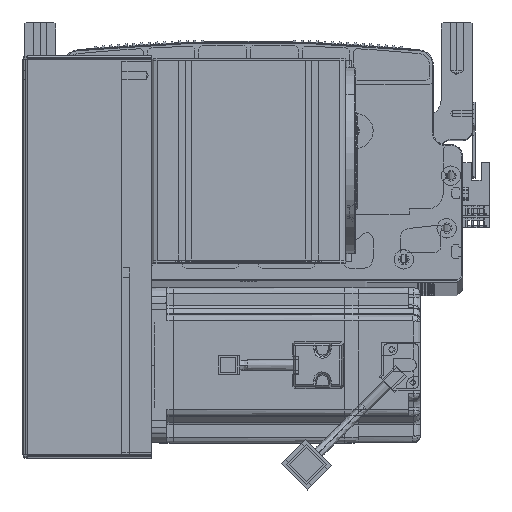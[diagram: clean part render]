
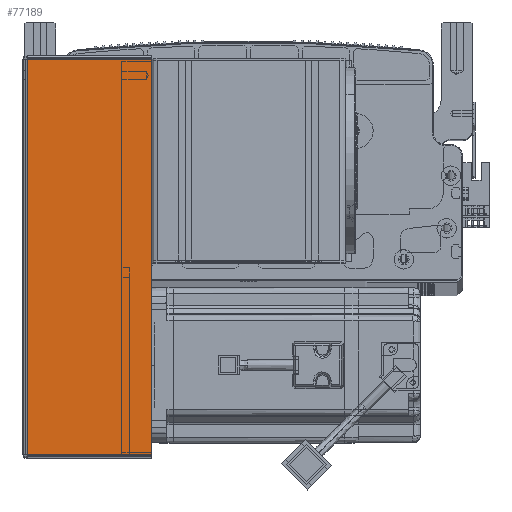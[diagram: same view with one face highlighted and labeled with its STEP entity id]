
A CAD part, top view. The second image highlights one B-rep face of the part: STEP entity #77189.
In plain terms, the highlighted planar face has unit normal (0, 0, 1) as drawn and (0, -1, 0) by its records, which use the part's own axes.
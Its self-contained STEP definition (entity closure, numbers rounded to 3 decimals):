
#1645 = LINE ( 'NONE', #82587, #75072 ) ;
#2713 = PLANE ( 'NONE',  #36267 ) ;
#3129 = FACE_OUTER_BOUND ( 'NONE', #83437, .T. ) ;
#10533 = CARTESIAN_POINT ( 'NONE',  ( 0., -1.5, 0. ) ) ;
#11297 = EDGE_CURVE ( 'NONE', #44225, #11705, #62145, .T. ) ;
#11705 = VERTEX_POINT ( 'NONE', #35732 ) ;
#20223 = DIRECTION ( 'NONE',  ( 1., 0., 0. ) ) ;
#25537 = EDGE_CURVE ( 'NONE', #92561, #28354, #83014, .T. ) ;
#27238 = EDGE_CURVE ( 'NONE', #28354, #11705, #1645, .T. ) ;
#28321 = VECTOR ( 'NONE', #102882, 1000. ) ;
#28354 = VERTEX_POINT ( 'NONE', #62667 ) ;
#35125 = DIRECTION ( 'NONE',  ( 0., 0., 1. ) ) ;
#35732 = CARTESIAN_POINT ( 'NONE',  ( 64.5, -1.5, -0.707 ) ) ;
#36267 = AXIS2_PLACEMENT_3D ( 'NONE', #10533, #91229, #67117 ) ;
#36462 = DIRECTION ( 'NONE',  ( 1., 0., 0. ) ) ;
#43656 = CARTESIAN_POINT ( 'NONE',  ( 0.737, -1.5, -203.293 ) ) ;
#44224 = CARTESIAN_POINT ( 'NONE',  ( 0., -1.5, -203.293 ) ) ;
#44225 = VERTEX_POINT ( 'NONE', #45317 ) ;
#45317 = CARTESIAN_POINT ( 'NONE',  ( 0.737, -1.5, -0.707 ) ) ;
#54948 = ORIENTED_EDGE ( 'NONE', *, *, #69257, .F. ) ;
#62145 = LINE ( 'NONE', #84303, #95034 ) ;
#62535 = ORIENTED_EDGE ( 'NONE', *, *, #25537, .T. ) ;
#62667 = CARTESIAN_POINT ( 'NONE',  ( 64.5, -1.5, -203.293 ) ) ;
#67117 = DIRECTION ( 'NONE',  ( -1., 0., 0. ) ) ;
#69257 = EDGE_CURVE ( 'NONE', #92561, #44225, #80226, .T. ) ;
#71110 = CARTESIAN_POINT ( 'NONE',  ( 0.737, -1.5, 0. ) ) ;
#75072 = VECTOR ( 'NONE', #35125, 1000. ) ;
#77189 = ADVANCED_FACE ( 'NONE', ( #3129 ), #2713, .F. ) ;
#80226 = LINE ( 'NONE', #71110, #28321 ) ;
#82587 = CARTESIAN_POINT ( 'NONE',  ( 64.5, -1.5, 0. ) ) ;
#83014 = LINE ( 'NONE', #44224, #95639 ) ;
#83437 = EDGE_LOOP ( 'NONE', ( #54948, #62535, #93720, #83885 ) ) ;
#83885 = ORIENTED_EDGE ( 'NONE', *, *, #11297, .F. ) ;
#84303 = CARTESIAN_POINT ( 'NONE',  ( 0., -1.5, -0.707 ) ) ;
#91229 = DIRECTION ( 'NONE',  ( 0., 1., 0. ) ) ;
#92561 = VERTEX_POINT ( 'NONE', #43656 ) ;
#93720 = ORIENTED_EDGE ( 'NONE', *, *, #27238, .T. ) ;
#95034 = VECTOR ( 'NONE', #20223, 1000. ) ;
#95639 = VECTOR ( 'NONE', #36462, 1000. ) ;
#102882 = DIRECTION ( 'NONE',  ( 0., 0., 1. ) ) ;
